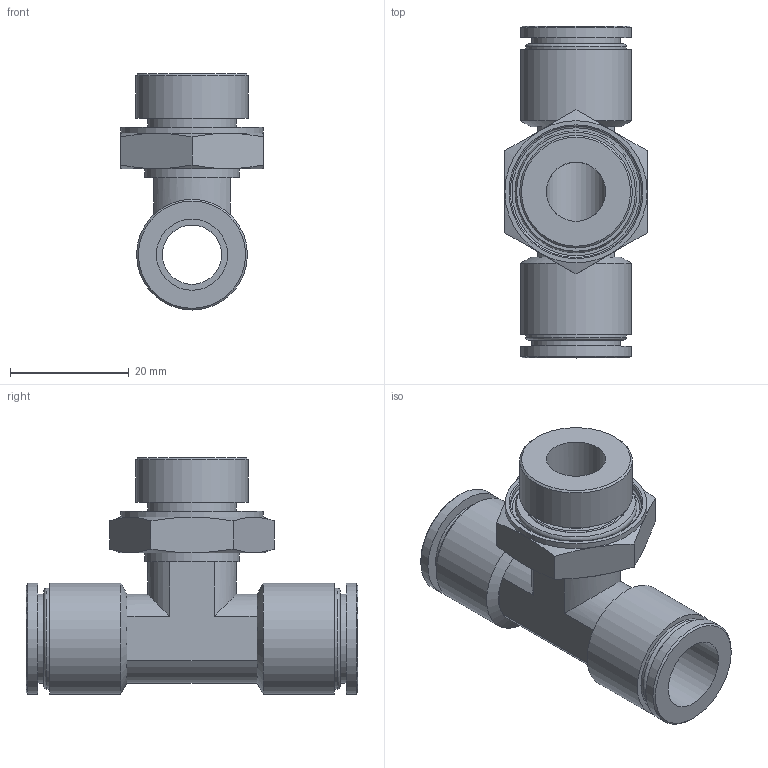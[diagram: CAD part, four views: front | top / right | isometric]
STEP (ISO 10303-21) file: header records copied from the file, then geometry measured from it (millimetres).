
FILE_DESCRIPTION(/* description */ (''),/* implementation_level */ '2;1');
FILE_NAME(/* name */ 'LXH38 0012 B4.stp',/* time_stamp */ '2026-04-25T14:49:48+02:00',/* author */ ('freju'),/* organization */ (''),/* preprocessor_version */ 'ST-DEVELOPER v20.1',/* originating_system */ 'Autodesk Inventor 2026',/* authorisation */ '');
FILE_SCHEMA (('AUTOMOTIVE_DESIGN { 1 0 10303 214 3 1 1 }'));
Length unit declared in the file: millimetre
Products named in the file (4): LXH38 0012 B4; LXH38 0012 B4_1; O-Ring; ISO 3601-1 - A 0170 G
Assembly tree (3 placements, depth 3):
  LXH38 0012 B4
    LXH38 0012 B4_1
    O-Ring
      ISO 3601-1 - A 0170 G
Bounding box: 24 x 56 x 39.85 mm (x, y, z)
Volume: 11846.1 mm3; surface area: 9367.7 mm2
Topology: 2 solids, 2 shells, 83 faces, 174 edges, 108 vertices
Faces by surface type: plane 31, cylinder 27, cone 17, torus 8
Full cylindrical faces by diameter (mm): 10 x2, 12 x2, 15 x3, 16 x1, 17 x3, 18.7 x4, 19 x1, 22.2 x1, 24 x1
Entity records: 2362 total; most frequent: DIRECTION 426, CARTESIAN_POINT 420, ORIENTED_EDGE 348, AXIS2_PLACEMENT_3D 186, EDGE_CURVE 174, VERTEX_POINT 108, EDGE_LOOP 102, CIRCLE 92
